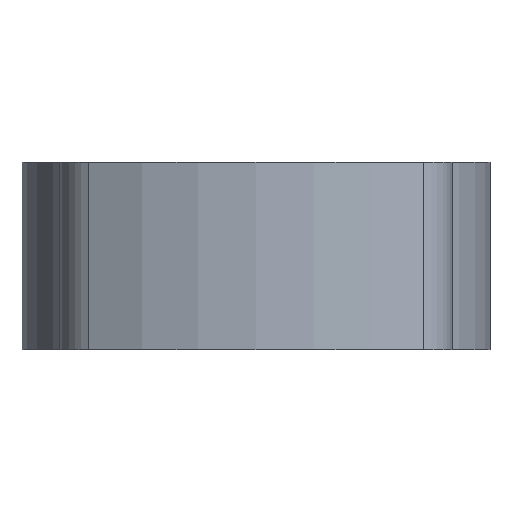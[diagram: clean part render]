
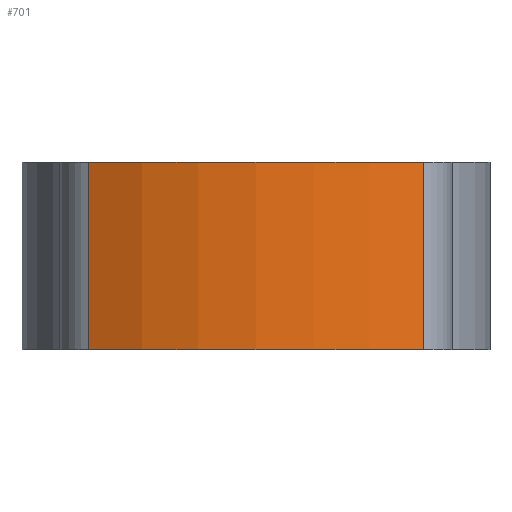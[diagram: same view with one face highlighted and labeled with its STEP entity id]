
A CAD part, front view. The second image highlights one B-rep face of the part: STEP entity #701.
In plain terms, the highlighted cylindrical face has radius 9.25 mm (diameter 18.5 mm), a partial arc.
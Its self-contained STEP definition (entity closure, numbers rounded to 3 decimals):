
#157=CARTESIAN_POINT('',(-4.462,-8.103,5.0));
#158=VERTEX_POINT('',#157);
#167=CARTESIAN_POINT('',(-4.462,-8.103,0.0));
#168=VERTEX_POINT('',#167);
#176=CARTESIAN_POINT('',(-4.462,-8.103,0.0));
#177=DIRECTION('',(0.0,0.0,1.0));
#178=VECTOR('',#177,5.0);
#179=LINE('',#176,#178);
#180=EDGE_CURVE('',#168,#158,#179,.T.);
#191=CARTESIAN_POINT('',(4.462,-8.103,5.0));
#192=VERTEX_POINT('',#191);
#193=CARTESIAN_POINT('',(0.0,0.0,5.0));
#194=DIRECTION('',(0.0,0.0,1.0));
#195=DIRECTION('',(-0.643,-0.766,0.0));
#196=AXIS2_PLACEMENT_3D('',#193,#194,#195);
#197=CIRCLE('',#196,9.25);
#198=EDGE_CURVE('',#158,#192,#197,.T.);
#401=CARTESIAN_POINT('',(4.462,-8.103,0.0));
#402=VERTEX_POINT('',#401);
#403=CARTESIAN_POINT('',(4.462,-8.103,5.0));
#404=DIRECTION('',(0.0,0.0,-1.0));
#405=VECTOR('',#404,5.0);
#406=LINE('',#403,#405);
#407=EDGE_CURVE('',#192,#402,#406,.T.);
#551=CARTESIAN_POINT('',(0.0,0.0,0.0));
#552=DIRECTION('',(0.0,0.0,1.0));
#553=DIRECTION('',(-0.643,-0.766,0.0));
#554=AXIS2_PLACEMENT_3D('',#551,#552,#553);
#555=CIRCLE('',#554,9.25);
#556=EDGE_CURVE('',#168,#402,#555,.T.);
#690=CARTESIAN_POINT('',(0.0,0.0,0.0));
#691=DIRECTION('',(0.0,0.0,1.0));
#692=DIRECTION('',(-0.643,-0.766,0.0));
#693=AXIS2_PLACEMENT_3D('',#690,#691,#692);
#694=CYLINDRICAL_SURFACE('',#693,9.25);
#695=ORIENTED_EDGE('',*,*,#180,.F.);
#696=ORIENTED_EDGE('',*,*,#556,.T.);
#697=ORIENTED_EDGE('',*,*,#407,.F.);
#698=ORIENTED_EDGE('',*,*,#198,.F.);
#699=EDGE_LOOP('',(#695,#696,#697,#698));
#700=FACE_OUTER_BOUND('',#699,.T.);
#701=ADVANCED_FACE('',(#700),#694,.T.);
